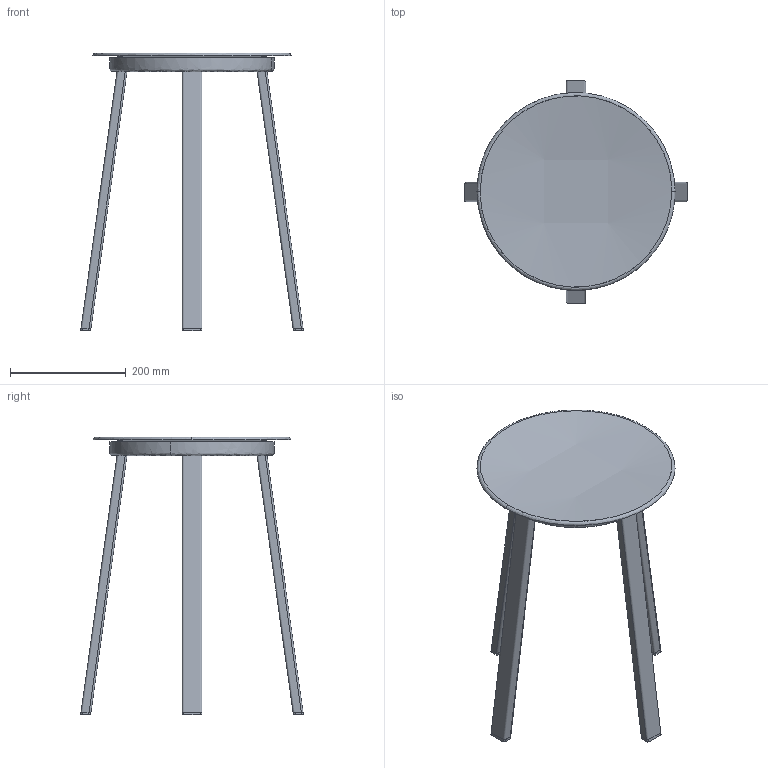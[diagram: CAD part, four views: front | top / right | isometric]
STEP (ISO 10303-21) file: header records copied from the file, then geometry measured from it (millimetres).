
FILE_DESCRIPTION(/* description */ (''),/* implementation_level */ '2;1');
FILE_NAME(/* name */ '180514_Revolver Stool',/* time_stamp */ '2018-05-14T10:23:36+02:00',/* author */ (''),/* organization */ (''),/* preprocessor_version */ 'ST-DEVELOPER v15',/* originating_system */ '',/* authorisation */ '');
FILE_SCHEMA (('AUTOMOTIVE_DESIGN'));
Length unit declared in the file: millimetre
Products named in the file (1): Document
Bounding box: 384.86 x 384.86 x 480.02 mm (x, y, z)
Volume: 389069.3 mm3; surface area: 619953 mm2
Topology: 10 solids, 14 shells, 131 faces, 319 edges, 213 vertices
Faces by surface type: bspline 102, plane 29
Entity records: 6985 total; most frequent: CARTESIAN_POINT 4910, ORIENTED_EDGE 608, EDGE_CURVE 312, VERTEX_POINT 200, B_SPLINE_CURVE_WITH_KNOTS 178, EDGE_LOOP 156, ADVANCED_FACE 131, FACE_OUTER_BOUND 131
